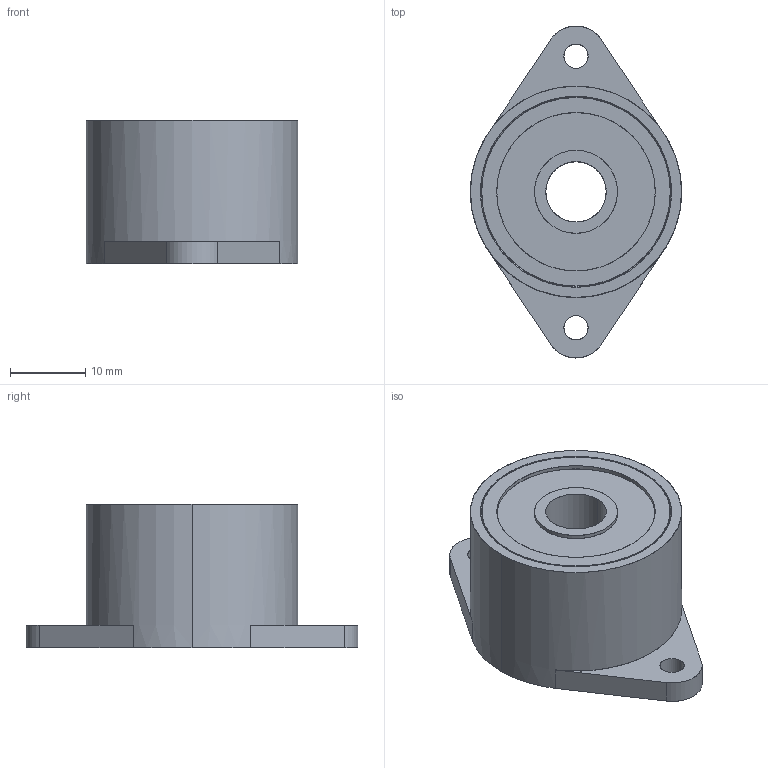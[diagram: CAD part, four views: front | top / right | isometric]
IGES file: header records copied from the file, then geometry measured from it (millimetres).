
Start section: SolidWorks IGES file using analytic representation for surfaces
Global section: file name: C:\3D-DATA\型式\R\【提出用】\IGS\FFD-28FW.IGS; native system: SolidWorks 2014; preprocessor: SolidWorks 2014; author: flgijutsu; date: 140516.195157; units: millimetre
Bounding box: 28 x 44 x 19 mm (x, y, z)
Surface area: 4318.4 mm2 (no closed solid volume)
Topology: 0 solids, 0 shells, 99 faces, 1284 edges, 1284 vertices
Faces by surface type: revolution 64, bspline 35
